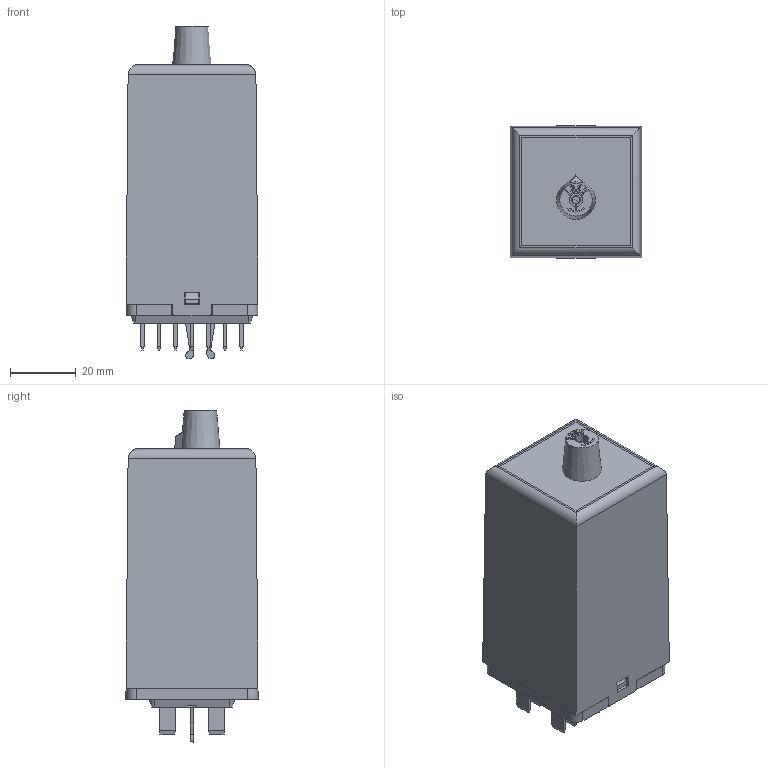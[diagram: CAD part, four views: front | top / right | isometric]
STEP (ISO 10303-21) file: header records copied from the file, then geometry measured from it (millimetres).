
FILE_DESCRIPTION((''),'2;1');
FILE_NAME('I:\TI\Bibliotheek\Inventor\Relais\TDDB\TDDB variable.stp','2011-03-03T14:39:04',('oey'),(''),'Autodesk Inventor 2011','Autodesk Inventor 2011','');
FILE_SCHEMA(('AUTOMOTIVE_DESIGN { 1 0 10303 214 1 1 1 1 }'));
Length unit declared in the file: millimetre
Products named in the file (1): TDDB variable
Bounding box: 40 x 40.06 x 100.65 mm (x, y, z)
Volume: 30005.3 mm3; surface area: 36464.5 mm2
Topology: 1 solids, 1 shells, 1559 faces, 4444 edges, 2836 vertices
Faces by surface type: plane 941, cylinder 418, bspline 134, sphere 56, cone 9, torus 1
Full cylindrical faces by diameter (mm): 1.6 x14, 1.7 x1, 2.2 x1, 2.7 x4, 5.4 x1, 6 x1
Entity records: 53122 total; most frequent: CARTESIAN_POINT 10936, ORIENTED_EDGE 8812, DIRECTION 8006, EDGE_CURVE 4406, VECTOR 3086, LINE 3086, VERTEX_POINT 2816, AXIS2_PLACEMENT_3D 2460
